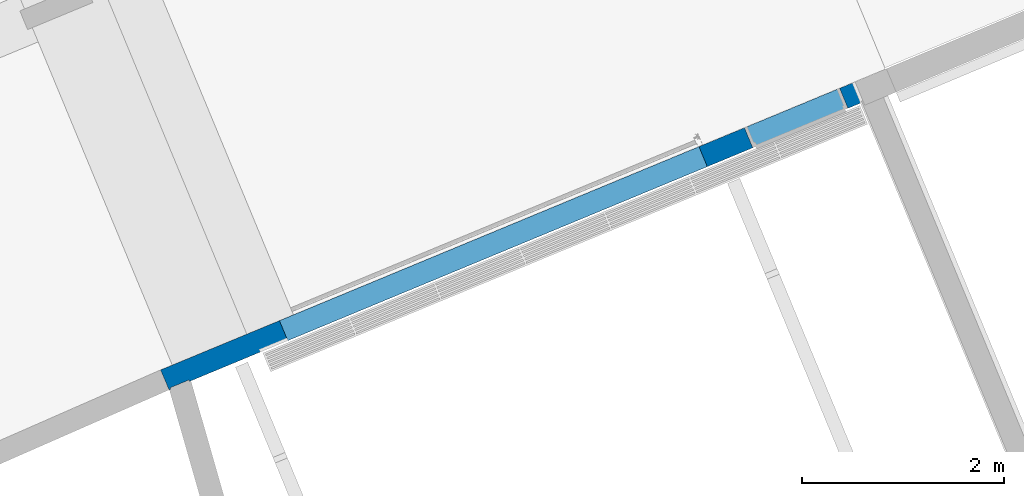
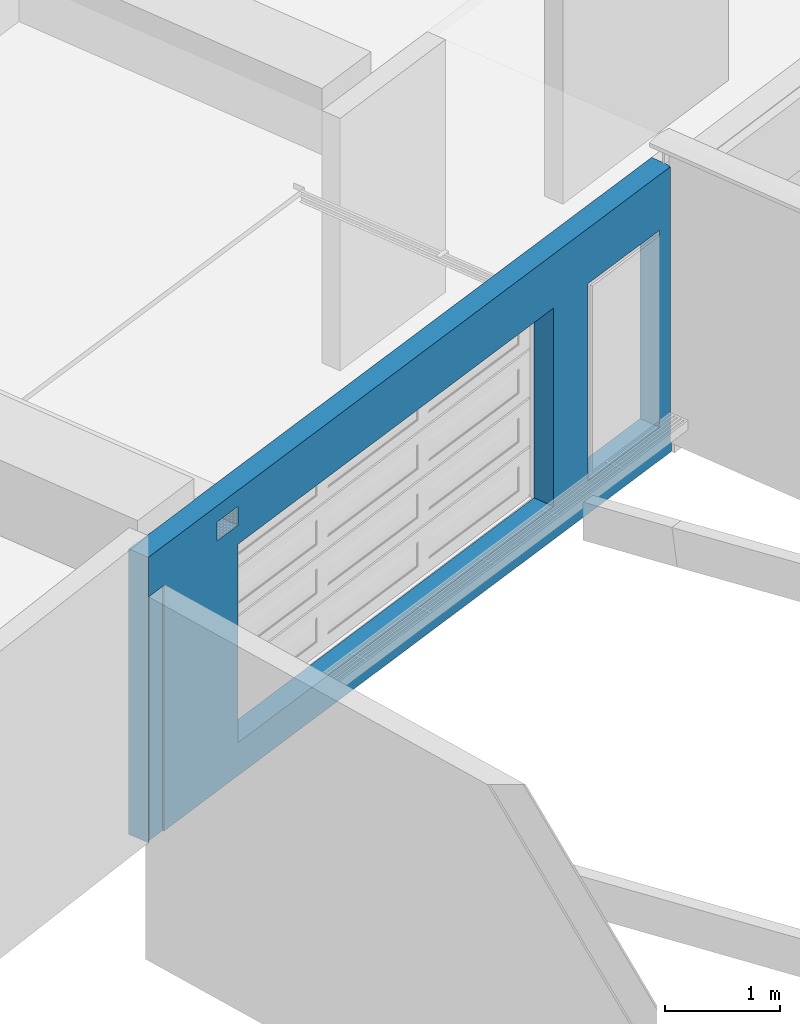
# One storey, part 7 of 20: 1 wall, 3 openings.
"""IFC2X3 building model written with IfcOpenShell, lengths in metres."""

from ifc_helpers import new_model, entity, si_unit, converted_unit, derived_unit, money_unit, direction, frame, origin_with_axes, place, context, subcontext, project, spatial, faceted_brep, material, material_list, type_object, element, save


model = new_model("IFC2X3")

# Units and contexts
model_context = context("Model", 3, precision=1e-05, world=origin_with_axes(), true_north=direction((0.0, 1.0)))
body_context = subcontext(model_context, "Body", "Model", "MODEL_VIEW")
ifc_project = project(units=[si_unit("LENGTHUNIT", "METRE"), si_unit("AREAUNIT", "SQUARE_METRE"), si_unit("VOLUMEUNIT", "CUBIC_METRE"), converted_unit("PLANEANGLEUNIT", "DEGREE", entity("IfcPlaneAngleMeasure", 0.0174532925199), si_unit("PLANEANGLEUNIT", "RADIAN"), dimensions=[0, 0, 0, 0, 0, 0, 0]), si_unit("SOLIDANGLEUNIT", "STERADIAN"), money_unit("EUR"), converted_unit("TIMEUNIT", "Year", entity("IfcTimeMeasure", 31556926.0), si_unit("TIMEUNIT", "SECOND"), dimensions=[0, 0, 1, 0, 0, 0, 0]), si_unit("MASSUNIT", "GRAM", prefix="KILO"), si_unit("THERMODYNAMICTEMPERATUREUNIT", "DEGREE_CELSIUS"), si_unit("LUMINOUSINTENSITYUNIT", "LUMEN"), si_unit("ENERGYUNIT", "JOULE", prefix="MEGA"), derived_unit("THERMALCONDUCTANCEUNIT", [(si_unit("POWERUNIT", "WATT"), 1), (si_unit("LENGTHUNIT", "METRE"), -1), (si_unit("THERMODYNAMICTEMPERATUREUNIT", "KELVIN"), -1)]), derived_unit("SPECIFICHEATCAPACITYUNIT", [(si_unit("ENERGYUNIT", "JOULE"), 1), (si_unit("MASSUNIT", "GRAM", prefix="KILO"), -1), (si_unit("THERMODYNAMICTEMPERATUREUNIT", "KELVIN"), -1)]), derived_unit("MASSDENSITYUNIT", [(si_unit("MASSUNIT", "GRAM", prefix="KILO"), 1), (si_unit("VOLUMEUNIT", "CUBIC_METRE"), -1)])], contexts=[model_context])

# Site, building, storey
site_placement = place(None, origin_with_axes())
site = spatial("IfcSite", under=ifc_project, at=site_placement, Name="Site", CompositionType="ELEMENT")
building_placement = place(site_placement, origin_with_axes())
building = spatial("IfcBuilding", under=site, at=building_placement, Name="Bâtiment", CompositionType="ELEMENT")
storey_placement = place(building_placement, frame((0.0, 0.0, -2.9), z_axis=(0.0, 0.0, 1.0), x_axis=(1.0, 0.0, 0.0)))
storey = spatial("IfcBuildingStorey", under=building, at=storey_placement, Name="Sous-sol", CompositionType="ELEMENT", Elevation=-2.9)

# Wall, openings
ifc_material_1 = material(Name="Béton")
ifc_material_2 = material(Name="Finition ext - Crépis")
ifc_material_list = material_list([ifc_material_1, ifc_material_2])
wall_type = type_object("IfcWallType", Name="1 - Mur Extérieur Béton 20+ ravalement 1 face 215", PredefinedType="USERDEFINED")
wall_placement = place(storey_placement, frame((-20.8034364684, -28.4877537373, -0.35), z_axis=(0.0, 0.0, 1.0), x_axis=(0.923701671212, 0.383112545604, 0.0)))
wall = element("IfcWall", 1, at=wall_placement, inside=storey, type_object=wall_type, material=ifc_material_list, Name="Voile béton banché 20cm", ObjectType="SOLIDWALL", context=body_context, shape_type="Brep", body=[
    faceted_brep([(7.44751907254, 0.2, 0.0999999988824), (7.44751907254, 0.2, 0.0), (-0.00203159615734, 0.199999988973, 0.0), (-0.00203159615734, 0.199999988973, 3.02), (0.123053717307, 0.199999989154, 3.02), (0.123053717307, 0.199999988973, 2.45), (0.923053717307, 0.199999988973, 2.45), (0.923053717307, 0.199999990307, 3.02), (7.45326520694, 0.199999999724, 3.02), (7.4532652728, 0.2, 0.1), (0.977034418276, 0.199999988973, 2.85), (0.977034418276, 0.199999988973, 2.65), (1.27703441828, 0.199999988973, 2.65), (1.27703441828, 0.199999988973, 2.85), (7.28114427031, 0.199999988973, 0.35), (7.28114427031, 0.199999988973, 2.435), (6.26114427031, 0.199999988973, 2.435), (6.26114427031, 0.199999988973, 0.35), (1.27305371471, 0.199999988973, 0.35), (5.77305371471, 0.199999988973, 0.35), (5.77305371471, 0.199999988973, 2.45), (1.27305371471, 0.199999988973, 2.45), (7.44751907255, 0.199975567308, 0.1), (7.44751907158, 0.199975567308, 3.02), (7.44751907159, 1.71471725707e-10, 3.02), (7.44751907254, -9.68576330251e-10, 0.0), (0.0, 6.55651888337e-09, 0.0), (0.0, 6.55651888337e-09, 3.02), (0.923053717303, 0.196095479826, 3.02), (0.123053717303, 0.196095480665, 3.02), (0.123053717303, 0.196095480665, 2.45), (0.923053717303, 0.196095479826, 2.45), (0.977034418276, 6.55652243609e-09, 2.85), (0.977034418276, 6.55652243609e-09, 2.65), (1.27703441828, 6.55651888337e-09, 2.65), (1.27703441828, 6.55651888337e-09, 2.85), (7.28114427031, 6.55651888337e-09, 2.435), (7.28114427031, 6.55651888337e-09, 0.35), (6.26114427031, 6.55651888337e-09, 2.435), (6.26114427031, 6.55651888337e-09, 0.35), (1.27305371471, -9.68576330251e-10, 0.35), (5.77305371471, -9.68576330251e-10, 0.35), (5.77305371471, -9.68576330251e-10, 2.45), (1.27305371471, -9.68576330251e-10, 2.45)], [[[0, 1, 2, 3, 4, 5, 6, 7, 8, 9], [10, 11, 12, 13], [14, 15, 16, 17], [18, 19, 20, 21]], [[1, 0, 22, 23, 24, 25]], [[1, 25, 26, 2]], [[3, 2, 26, 27]], [[27, 24, 23, 8, 7, 28, 29, 4, 3]], [[30, 5, 4, 29]], [[30, 31, 6, 5]], [[6, 31, 28, 7]], [[9, 8, 23, 22]], [[22, 0, 9]], [[10, 32, 33, 11]], [[11, 33, 34, 12]], [[12, 34, 35, 13]], [[13, 35, 32, 10]], [[36, 15, 14, 37]], [[38, 16, 15, 36]], [[39, 17, 16, 38]], [[37, 14, 17, 39]], [[40, 41, 19, 18]], [[41, 42, 20, 19]], [[42, 43, 21, 20]], [[43, 40, 18, 21]], [[24, 27, 26, 25], [34, 33, 32, 35], [38, 36, 37, 39], [40, 43, 42, 41]], [[31, 30, 29, 28]]]),
    faceted_brep([(0.0, 6.55651888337e-09, 0.0), (0.0, 6.55651888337e-09, 3.02), (7.43251907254, 1.84328996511e-10, 3.02), (7.43251907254, -9.68576330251e-10, 0.1), (7.44751907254, -9.68569224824e-10, 0.1), (7.44751907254, -9.68576330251e-10, 0.0), (0.221290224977, 6.33292529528e-09, 0.0), (0.22129022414, -9.68576330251e-10, 2.6), (0.0199823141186, -9.68576330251e-10, 2.6), (0.0199823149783, 6.53633236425e-09, 0.0), (0.977034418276, 6.55652243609e-09, 2.85), (0.977034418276, 6.55652243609e-09, 2.65), (1.27703441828, 6.55651888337e-09, 2.65), (1.27703441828, 6.55651888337e-09, 2.85), (7.28114427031, 6.33292529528e-09, 0.35), (7.28114427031, 6.33292529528e-09, 2.435), (6.26114427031, 6.33292529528e-09, 2.435), (6.26114427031, 6.33292529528e-09, 0.35), (1.27305371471, -9.68576330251e-10, 0.35), (5.77305371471, -9.68576330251e-10, 0.35), (5.77305371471, -9.68576330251e-10, 2.45), (1.27305371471, -9.68576330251e-10, 2.45), (0.000152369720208, -0.015, 0.0), (0.000152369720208, -0.015, 3.02), (7.43251907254, -0.015, 3.02), (7.43251907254, -0.015, 0.1), (7.44751907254, -0.015, 0.1), (7.44751907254, -0.015, 0.0), (0.219571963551, -0.015, 0.0), (0.219571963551, -0.015, 2.6), (0.0182640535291, -0.015, 2.6), (0.0182640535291, -0.015, 0.0), (0.977034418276, -0.015, 2.85), (0.977034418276, -0.015, 2.65), (1.27703441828, -0.015, 2.65), (1.27703441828, -0.015, 2.85), (7.28114427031, -0.015, 2.435), (7.28114427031, -0.015, 0.35), (6.26114427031, -0.015, 2.435), (6.26114427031, -0.015, 0.35), (1.27305371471, -0.015, 0.35), (5.77305371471, -0.015, 0.35), (5.77305371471, -0.015, 2.45), (1.27305371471, -0.015, 2.45)], [[[0, 1, 2, 3, 4, 5, 6, 7, 8, 9], [10, 11, 12, 13], [14, 15, 16, 17], [18, 19, 20, 21]], [[1, 0, 22, 23]], [[24, 2, 1, 23]], [[2, 24, 25, 3]], [[25, 26, 4, 3]], [[4, 26, 27, 5]], [[28, 6, 5, 27]], [[28, 29, 7, 6]], [[29, 30, 8, 7]], [[30, 31, 9, 8]], [[9, 31, 22, 0]], [[10, 32, 33, 11]], [[11, 33, 34, 12]], [[12, 34, 35, 13]], [[13, 35, 32, 10]], [[36, 15, 14, 37]], [[38, 16, 15, 36]], [[39, 17, 16, 38]], [[37, 14, 17, 39]], [[40, 41, 19, 18]], [[41, 42, 20, 19]], [[42, 43, 21, 20]], [[43, 40, 18, 21]], [[29, 28, 27, 26, 25, 24, 23, 22, 31, 30], [34, 33, 32, 35], [38, 36, 37, 39], [40, 43, 42, 41]]]),
])
opening_1_placement = place(wall_placement, frame((30.1301848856, 18.3441282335, 3.25), z_axis=(0.0, 0.0, 1.0), x_axis=(0.923701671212, -0.383112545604, 0.0)))
element("IfcOpeningElement", 2, at=opening_1_placement, cuts=wall, Name="PERCEMENT-002", context=body_context, shape_type="Brep", body=[
    faceted_brep([(-18.474179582, -31.5534431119, -0.6), (-18.474179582, -31.5534431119, -0.4), (-22.2714959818, -22.3979415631, -0.4), (-22.2714959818, -22.3979415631, -0.6), (-18.1493993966, -31.5534431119, -0.6), (-18.1493993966, -31.5534431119, -0.4), (-21.9467157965, -22.3979415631, -0.4), (-21.9467157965, -22.3979415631, -0.6)], [[[0, 1, 2, 3]], [[0, 4, 5, 1]], [[1, 5, 6, 2]], [[3, 2, 6, 7]], [[4, 0, 3, 7]], [[5, 4, 7, 6]]]),
])
opening_2_placement = place(wall_placement, frame((6.77114427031, 0.0, 0.35), z_axis=(0.0, 0.0, 1.0), x_axis=(1.0, 0.0, 0.0)))
element("IfcOpeningElement", 3, at=opening_2_placement, cuts=wall, Name="Porte acier 1V 93x204", context=body_context, shape_type="Brep", body=[
    faceted_brep([(0.51, -0.215, 0.0), (-0.51, -0.215, 0.0), (-0.51, 0.215, 0.0), (0.51, 0.215, 0.0), (0.51, -0.215, 2.085), (-0.51, -0.215, 2.085), (-0.51, 0.215, 2.085), (0.51, 0.215, 2.085)], [[[0, 1, 2, 3]], [[0, 4, 5, 1]], [[1, 5, 6, 2]], [[3, 2, 6, 7]], [[4, 0, 3, 7]], [[5, 4, 7, 6]]]),
])
opening_3_placement = place(wall_placement, frame((3.52305371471, 0.0, 0.35), z_axis=(0.0, 0.0, 1.0), x_axis=(1.0, 0.0, 0.0)))
element("IfcOpeningElement", 4, at=opening_3_placement, cuts=wall, Name="Porte acier motorisée 450x210", context=body_context, shape_type="Brep", body=[
    faceted_brep([(-2.25, -0.43, 0.0), (-2.25, -0.43, 2.1), (-2.25, 0.215, 2.1), (-2.25, 0.215, 0.0), (2.25, -0.43, 0.0), (2.25, -0.43, 2.1), (2.25, 0.215, 2.1), (2.25, 0.215, 0.0)], [[[0, 1, 2, 3]], [[0, 4, 5, 1]], [[1, 5, 6, 2]], [[3, 2, 6, 7]], [[4, 0, 3, 7]], [[5, 4, 7, 6]]]),
])

save(model, "model.ifc")
